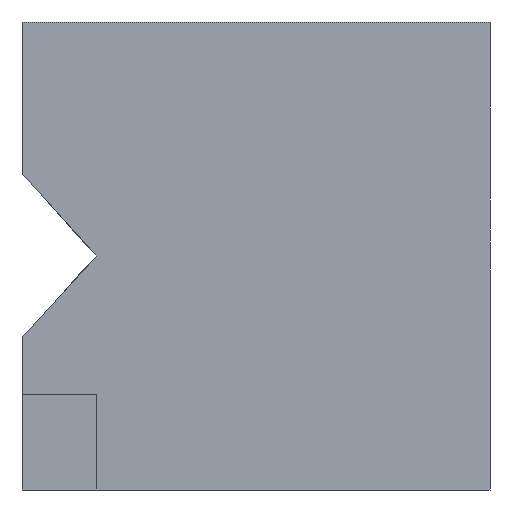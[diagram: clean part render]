
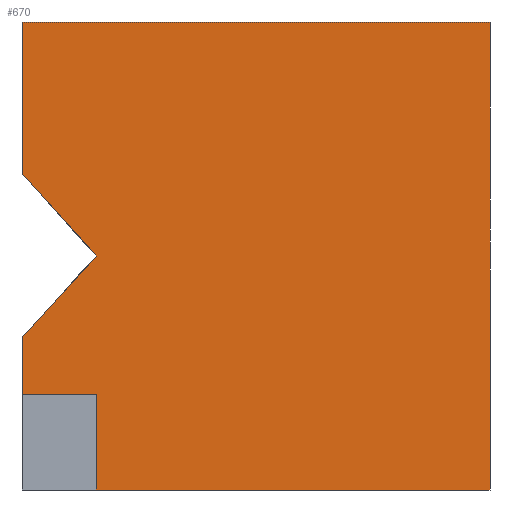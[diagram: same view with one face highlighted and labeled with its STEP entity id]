
A CAD part, front view. The second image highlights one B-rep face of the part: STEP entity #670.
In plain terms, the highlighted planar face has unit normal (0, -1, 0).
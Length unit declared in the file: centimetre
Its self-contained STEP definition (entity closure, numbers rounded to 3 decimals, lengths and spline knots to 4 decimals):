
#16 = LINE ( 'NONE', #1099, #1157 ) ;
#75 = VERTEX_POINT ( 'NONE', #1057 ) ;
#80 = CARTESIAN_POINT ( 'NONE',  ( 0., 0., 326.4443 ) ) ;
#156 = LINE ( 'NONE', #248, #1063 ) ;
#171 = VECTOR ( 'NONE', #1016, 100. ) ;
#182 = PLANE ( 'NONE',  #1112 ) ;
#197 = EDGE_CURVE ( 'NONE', #826, #1092, #156, .T. ) ;
#227 = CARTESIAN_POINT ( 'NONE',  ( 159.1652, 0., 0. ) ) ;
#248 = CARTESIAN_POINT ( 'NONE',  ( 0., 0., 0. ) ) ;
#269 = ORIENTED_EDGE ( 'NONE', *, *, #569, .T. ) ;
#285 = LINE ( 'NONE', #736, #171 ) ;
#286 = VECTOR ( 'NONE', #968, 100. ) ;
#288 = EDGE_CURVE ( 'NONE', #1115, #418, #454, .T. ) ;
#317 = CARTESIAN_POINT ( 'NONE',  ( 0., 0., 204.1533 ) ) ;
#353 = VECTOR ( 'NONE', #360, 100. ) ;
#360 = DIRECTION ( 'NONE',  ( 1., 0., 0. ) ) ;
#364 = ORIENTED_EDGE ( 'NONE', *, *, #1171, .F. ) ;
#372 = LINE ( 'NONE', #934, #388 ) ;
#383 = CARTESIAN_POINT ( 'NONE',  ( 0., 0., 676.8382 ) ) ;
#388 = VECTOR ( 'NONE', #753, 100. ) ;
#418 = VERTEX_POINT ( 'NONE', #995 ) ;
#425 = EDGE_CURVE ( 'NONE', #418, #1092, #637, .T. ) ;
#426 = ORIENTED_EDGE ( 'NONE', *, *, #288, .F. ) ;
#428 = LINE ( 'NONE', #317, #286 ) ;
#436 = DIRECTION ( 'NONE',  ( 1., 0., 0. ) ) ;
#454 = LINE ( 'NONE', #705, #353 ) ;
#456 = CARTESIAN_POINT ( 'NONE',  ( 0., 0., 326.4443 ) ) ;
#476 = VERTEX_POINT ( 'NONE', #901 ) ;
#485 = CARTESIAN_POINT ( 'NONE',  ( 159.1652, 0., 0. ) ) ;
#505 = VECTOR ( 'NONE', #529, 100. ) ;
#529 = DIRECTION ( 'NONE',  ( -0.675, 0., -0.738 ) ) ;
#542 = EDGE_LOOP ( 'NONE', ( #762, #955, #364, #961, #709, #426, #1006, #664, #269 ) ) ;
#568 = CARTESIAN_POINT ( 'NONE',  ( 0., 0., 204.1533 ) ) ;
#569 = EDGE_CURVE ( 'NONE', #75, #572, #1178, .T. ) ;
#572 = VERTEX_POINT ( 'NONE', #456 ) ;
#637 = LINE ( 'NONE', #1081, #958 ) ;
#652 = FACE_OUTER_BOUND ( 'NONE', #542, .T. ) ;
#661 = DIRECTION ( 'NONE',  ( 0., 0., 1. ) ) ;
#664 = ORIENTED_EDGE ( 'NONE', *, *, #687, .T. ) ;
#670 = ADVANCED_FACE ( 'NONE', ( #652 ), #182, .F. ) ;
#680 = VERTEX_POINT ( 'NONE', #383 ) ;
#687 = EDGE_CURVE ( 'NONE', #680, #75, #16, .T. ) ;
#705 = CARTESIAN_POINT ( 'NONE',  ( 0., 0., 1000. ) ) ;
#709 = ORIENTED_EDGE ( 'NONE', *, *, #425, .F. ) ;
#714 = EDGE_CURVE ( 'NONE', #572, #1047, #285, .T. ) ;
#732 = EDGE_CURVE ( 'NONE', #1115, #680, #372, .T. ) ;
#736 = CARTESIAN_POINT ( 'NONE',  ( 0., 0., 1000. ) ) ;
#753 = DIRECTION ( 'NONE',  ( 0., 0., -1. ) ) ;
#762 = ORIENTED_EDGE ( 'NONE', *, *, #714, .T. ) ;
#826 = VERTEX_POINT ( 'NONE', #227 ) ;
#831 = DIRECTION ( 'NONE',  ( 0., 1., 0. ) ) ;
#867 = CARTESIAN_POINT ( 'NONE',  ( 1000., 0., 0. ) ) ;
#901 = CARTESIAN_POINT ( 'NONE',  ( 159.1652, 0., 204.1533 ) ) ;
#934 = CARTESIAN_POINT ( 'NONE',  ( 0., 0., 1000. ) ) ;
#941 = DIRECTION ( 'NONE',  ( 0., 0., 1. ) ) ;
#955 = ORIENTED_EDGE ( 'NONE', *, *, #1155, .F. ) ;
#958 = VECTOR ( 'NONE', #1077, 100. ) ;
#961 = ORIENTED_EDGE ( 'NONE', *, *, #197, .T. ) ;
#968 = DIRECTION ( 'NONE',  ( -1., 0., 0. ) ) ;
#995 = CARTESIAN_POINT ( 'NONE',  ( 1000., 0., 1000. ) ) ;
#1006 = ORIENTED_EDGE ( 'NONE', *, *, #732, .T. ) ;
#1013 = CARTESIAN_POINT ( 'NONE',  ( 0., 0., 1000. ) ) ;
#1016 = DIRECTION ( 'NONE',  ( 0., 0., -1. ) ) ;
#1020 = VECTOR ( 'NONE', #941, 100. ) ;
#1047 = VERTEX_POINT ( 'NONE', #568 ) ;
#1057 = CARTESIAN_POINT ( 'NONE',  ( 158.8245, 0., 500. ) ) ;
#1063 = VECTOR ( 'NONE', #436, 100. ) ;
#1077 = DIRECTION ( 'NONE',  ( 0., 0., -1. ) ) ;
#1081 = CARTESIAN_POINT ( 'NONE',  ( 1000., 0., 1000. ) ) ;
#1092 = VERTEX_POINT ( 'NONE', #867 ) ;
#1099 = CARTESIAN_POINT ( 'NONE',  ( 158.8245, 0., 500. ) ) ;
#1109 = DIRECTION ( 'NONE',  ( 0.668, 0., -0.744 ) ) ;
#1112 = AXIS2_PLACEMENT_3D ( 'NONE', #1013, #831, #661 ) ;
#1115 = VERTEX_POINT ( 'NONE', #1148 ) ;
#1143 = LINE ( 'NONE', #485, #1020 ) ;
#1148 = CARTESIAN_POINT ( 'NONE',  ( 0., 0., 1000. ) ) ;
#1155 = EDGE_CURVE ( 'NONE', #476, #1047, #428, .T. ) ;
#1157 = VECTOR ( 'NONE', #1109, 100. ) ;
#1171 = EDGE_CURVE ( 'NONE', #826, #476, #1143, .T. ) ;
#1178 = LINE ( 'NONE', #80, #505 ) ;
